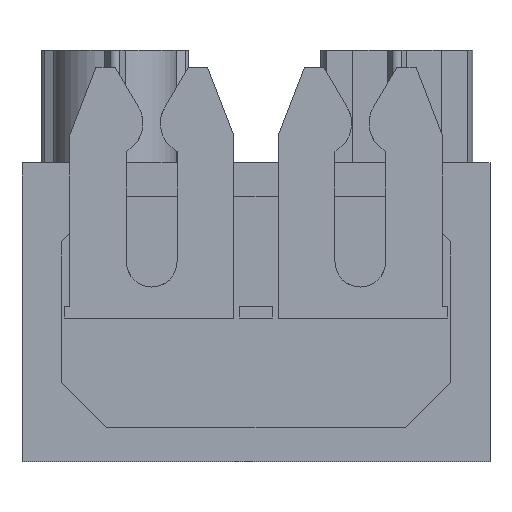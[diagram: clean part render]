
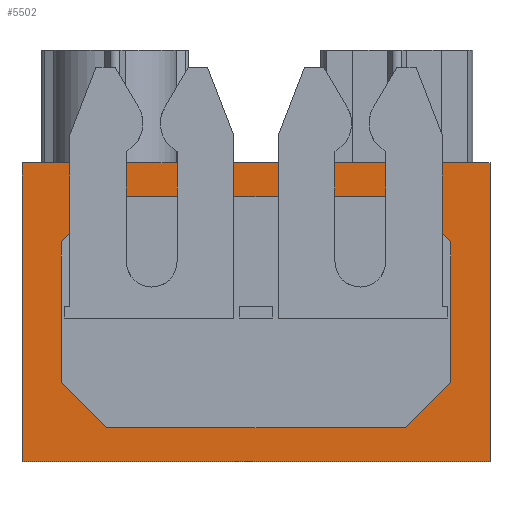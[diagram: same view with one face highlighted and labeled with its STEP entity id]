
A CAD part, front view. The second image highlights one B-rep face of the part: STEP entity #5502.
In plain terms, the highlighted planar face has unit normal (0, -1, 0).
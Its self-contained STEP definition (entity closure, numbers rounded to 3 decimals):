
#35 = ORIENTED_EDGE ( 'NONE', *, *, #76, .F. ) ;
#76 = EDGE_CURVE ( 'NONE', #101, #11271, #493, .T. ) ;
#101 = VERTEX_POINT ( 'NONE', #675 ) ;
#159 = ORIENTED_EDGE ( 'NONE', *, *, #202, .F. ) ;
#202 = EDGE_CURVE ( 'NONE', #231, #101, #1287, .T. ) ;
#231 = VERTEX_POINT ( 'NONE', #1414 ) ;
#283 = VERTEX_POINT ( 'NONE', #2597 ) ;
#493 = LINE ( 'NONE', #494, #495 ) ;
#494 = CARTESIAN_POINT ( 'NONE',  ( -0.026, -3.5, -0.9 ) ) ;
#495 = VECTOR ( 'NONE', #496, 1000. ) ;
#496 = DIRECTION ( 'NONE',  ( -0.707, 0., -0.707 ) ) ;
#675 = CARTESIAN_POINT ( 'NONE',  ( -0.026, -3.5, -0.9 ) ) ;
#755 = EDGE_CURVE ( 'NONE', #283, #989, #3189, .T. ) ;
#955 = EDGE_LOOP ( 'NONE', ( #10202, #11200, #35, #159, #2625, #3607, #4610, #5754 ) ) ;
#989 = VERTEX_POINT ( 'NONE', #3275 ) ;
#1065 = LINE ( 'NONE', #1066, #1067 ) ;
#1066 = CARTESIAN_POINT ( 'NONE',  ( 6.65, -3.5, 0. ) ) ;
#1067 = VECTOR ( 'NONE', #1068, 1000. ) ;
#1068 = DIRECTION ( 'NONE',  ( 0., 0., -1. ) ) ;
#1287 = LINE ( 'NONE', #1288, #1289 ) ;
#1288 = CARTESIAN_POINT ( 'NONE',  ( 5.026, -3.5, -0.9 ) ) ;
#1289 = VECTOR ( 'NONE', #1290, 1000. ) ;
#1290 = DIRECTION ( 'NONE',  ( -1., 0., 0. ) ) ;
#1414 = CARTESIAN_POINT ( 'NONE',  ( 5.026, -3.5, -0.9 ) ) ;
#1872 = EDGE_LOOP ( 'NONE', ( #7158, #8288, #9087, #9558 ) ) ;
#2597 = CARTESIAN_POINT ( 'NONE',  ( -1.65, -3.5, 0. ) ) ;
#2625 = ORIENTED_EDGE ( 'NONE', *, *, #2926, .F. ) ;
#2926 = EDGE_CURVE ( 'NONE', #3156, #231, #4988, .T. ) ;
#3156 = VERTEX_POINT ( 'NONE', #5293 ) ;
#3189 = LINE ( 'NONE', #3190, #3191 ) ;
#3190 = CARTESIAN_POINT ( 'NONE',  ( 6.65, -3.5, 0. ) ) ;
#3191 = VECTOR ( 'NONE', #3192, 1000. ) ;
#3192 = DIRECTION ( 'NONE',  ( 1., 0., 0. ) ) ;
#3275 = CARTESIAN_POINT ( 'NONE',  ( 6.65, -3.5, 0. ) ) ;
#3607 = ORIENTED_EDGE ( 'NONE', *, *, #3926, .F. ) ;
#3926 = EDGE_CURVE ( 'NONE', #4174, #3156, #6035, .T. ) ;
#4174 = VERTEX_POINT ( 'NONE', #6254 ) ;
#4610 = ORIENTED_EDGE ( 'NONE', *, *, #4943, .F. ) ;
#4943 = EDGE_CURVE ( 'NONE', #5169, #4174, #7857, .T. ) ;
#4988 = LINE ( 'NONE', #4989, #4990 ) ;
#4989 = CARTESIAN_POINT ( 'NONE',  ( 5.65, -3.5, -1.524 ) ) ;
#4990 = VECTOR ( 'NONE', #4991, 1000. ) ;
#4991 = DIRECTION ( 'NONE',  ( -0.707, 0., 0.707 ) ) ;
#5169 = VERTEX_POINT ( 'NONE', #7973 ) ;
#5293 = CARTESIAN_POINT ( 'NONE',  ( 5.65, -3.5, -1.524 ) ) ;
#5502 = ADVANCED_FACE ( 'NONE', ( #8258, #8259 ), #8260, .F. ) ;
#5754 = ORIENTED_EDGE ( 'NONE', *, *, #6080, .F. ) ;
#5847 = CARTESIAN_POINT ( 'NONE',  ( -1.65, -3.5, -5.3 ) ) ;
#6035 = LINE ( 'NONE', #6036, #6037 ) ;
#6036 = CARTESIAN_POINT ( 'NONE',  ( 5.65, -3.5, -3.776 ) ) ;
#6037 = VECTOR ( 'NONE', #6038, 1000. ) ;
#6038 = DIRECTION ( 'NONE',  ( 0., 0., 1. ) ) ;
#6080 = EDGE_CURVE ( 'NONE', #11143, #5169, #8688, .T. ) ;
#6254 = CARTESIAN_POINT ( 'NONE',  ( 5.65, -3.5, -3.776 ) ) ;
#6510 = LINE ( 'NONE', #6511, #6512 ) ;
#6511 = CARTESIAN_POINT ( 'NONE',  ( -1.65, -3.5, 0. ) ) ;
#6512 = VECTOR ( 'NONE', #6513, 1000. ) ;
#6513 = DIRECTION ( 'NONE',  ( 0., 0., -1. ) ) ;
#7158 = ORIENTED_EDGE ( 'NONE', *, *, #7456, .T. ) ;
#7456 = EDGE_CURVE ( 'NONE', #10724, #7690, #10013, .T. ) ;
#7690 = VERTEX_POINT ( 'NONE', #10115 ) ;
#7857 = LINE ( 'NONE', #7858, #7859 ) ;
#7858 = CARTESIAN_POINT ( 'NONE',  ( 5.026, -3.5, -4.4 ) ) ;
#7859 = VECTOR ( 'NONE', #7860, 1000. ) ;
#7860 = DIRECTION ( 'NONE',  ( 0.707, 0., 0.707 ) ) ;
#7973 = CARTESIAN_POINT ( 'NONE',  ( 5.026, -3.5, -4.4 ) ) ;
#8258 = FACE_OUTER_BOUND ( 'NONE', #1872, .T. ) ;
#8259 = FACE_BOUND ( 'NONE', #955, .T. ) ;
#8260 = PLANE ( 'NONE',  #8261 ) ;
#8261 = AXIS2_PLACEMENT_3D ( 'NONE', #8262, #8263, #8264 ) ;
#8262 = CARTESIAN_POINT ( 'NONE',  ( 6.65, -3.5, 0. ) ) ;
#8263 = DIRECTION ( 'NONE',  ( 0., 1., 0. ) ) ;
#8264 = DIRECTION ( 'NONE',  ( -1., 0., 0. ) ) ;
#8288 = ORIENTED_EDGE ( 'NONE', *, *, #8602, .F. ) ;
#8449 = LINE ( 'NONE', #8450, #8451 ) ;
#8450 = CARTESIAN_POINT ( 'NONE',  ( -0.65, -3.5, -3.776 ) ) ;
#8451 = VECTOR ( 'NONE', #8452, 1000. ) ;
#8452 = DIRECTION ( 'NONE',  ( 0.707, 0., -0.707 ) ) ;
#8585 = CARTESIAN_POINT ( 'NONE',  ( -0.65, -3.5, -3.776 ) ) ;
#8602 = EDGE_CURVE ( 'NONE', #989, #7690, #1065, .T. ) ;
#8688 = LINE ( 'NONE', #8689, #8690 ) ;
#8689 = CARTESIAN_POINT ( 'NONE',  ( -0.026, -3.5, -4.4 ) ) ;
#8690 = VECTOR ( 'NONE', #8691, 1000. ) ;
#8691 = DIRECTION ( 'NONE',  ( 1., 0., 0. ) ) ;
#8784 = CARTESIAN_POINT ( 'NONE',  ( -0.026, -3.5, -4.4 ) ) ;
#9087 = ORIENTED_EDGE ( 'NONE', *, *, #755, .F. ) ;
#9558 = ORIENTED_EDGE ( 'NONE', *, *, #10855, .T. ) ;
#9690 = LINE ( 'NONE', #9691, #9699 ) ;
#9691 = CARTESIAN_POINT ( 'NONE',  ( -0.65, -3.5, -1.524 ) ) ;
#9699 = VECTOR ( 'NONE', #9700, 1000. ) ;
#9700 = DIRECTION ( 'NONE',  ( 0., 0., -1. ) ) ;
#9876 = CARTESIAN_POINT ( 'NONE',  ( -0.65, -3.5, -1.524 ) ) ;
#10013 = LINE ( 'NONE', #10014, #10015 ) ;
#10014 = CARTESIAN_POINT ( 'NONE',  ( 6.65, -3.5, -5.3 ) ) ;
#10015 = VECTOR ( 'NONE', #10016, 1000. ) ;
#10016 = DIRECTION ( 'NONE',  ( 1., 0., 0. ) ) ;
#10115 = CARTESIAN_POINT ( 'NONE',  ( 6.65, -3.5, -5.3 ) ) ;
#10202 = ORIENTED_EDGE ( 'NONE', *, *, #11089, .F. ) ;
#10724 = VERTEX_POINT ( 'NONE', #5847 ) ;
#10855 = EDGE_CURVE ( 'NONE', #283, #10724, #6510, .T. ) ;
#11089 = EDGE_CURVE ( 'NONE', #11114, #11143, #8449, .T. ) ;
#11114 = VERTEX_POINT ( 'NONE', #8585 ) ;
#11143 = VERTEX_POINT ( 'NONE', #8784 ) ;
#11200 = ORIENTED_EDGE ( 'NONE', *, *, #11241, .F. ) ;
#11241 = EDGE_CURVE ( 'NONE', #11271, #11114, #9690, .T. ) ;
#11271 = VERTEX_POINT ( 'NONE', #9876 ) ;
